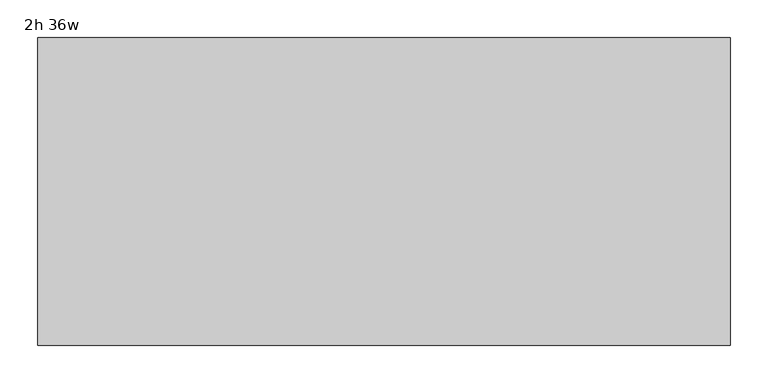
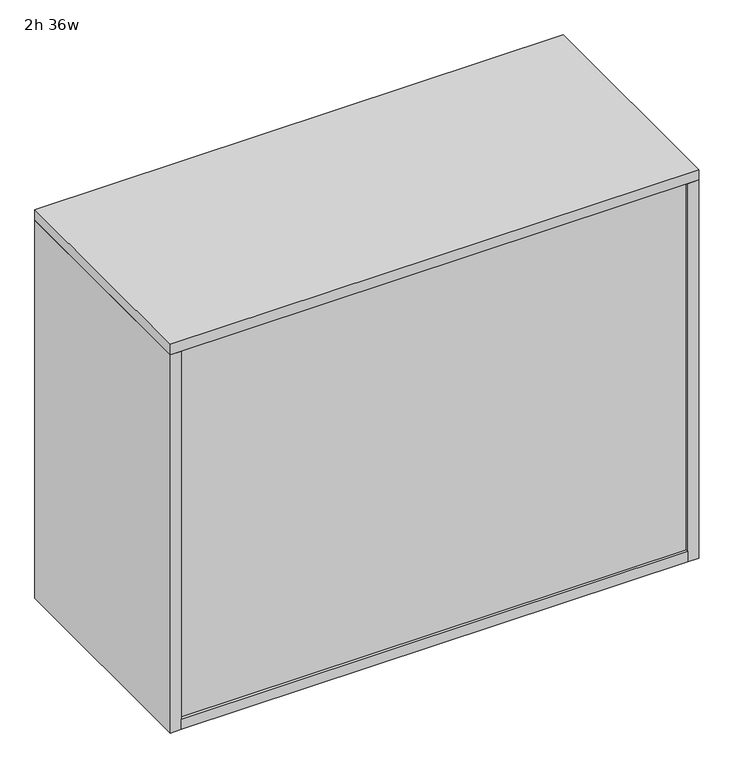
"""IFC4 building model written with IfcOpenShell, lengths in millimetres: furniture geometry, Haworth_BeHold_Bookcase1 : 2h 36w."""

from ifc_helpers import new_model, si_unit, frame, origin, origin_with_axes, place, context, project, spatial, polyline, outline, extrude, source, transform, mapped, element, save


def furniture_2h_36w_56bdcc12(model_context):
    return source(origin(), model_context, "Body", "SweptSolid", [
        extrude(outline(polyline([(281.2908447, 98.425), (-595.0091553, 98.425), (-595.0091553, 485.775), (281.2908447, 485.775), (281.2908447, 98.425)])), frame((0.0, 0.0, 398.526), z_axis=(0.0, 0.0, 1.0), x_axis=(1.0, 0.0, 0.0)), (0.0, 0.0, 1.0), 19.05),
        extrude(outline(polyline([(281.2908447, 93.6625), (-595.0091553, 93.6625), (-595.0091553, 112.7125), (281.2908447, 112.7125), (281.2908447, 93.6625)])), frame((0.0, 0.0, 19.05), z_axis=(0.0, 0.0, 1.0), x_axis=(1.0, 0.0, 0.0)), (0.0, 0.0, 1.0), 673.1),
        extrude(outline(polyline([(281.2908447, 88.9), (-595.0091553, 88.9), (-595.0091553, 495.3), (281.2908447, 495.3), (281.2908447, 88.9)])), origin_with_axes(), (0.0, 0.0, 1.0), 19.05),
        extrude(outline(polyline([(300.3408447, 88.9), (-614.0591553, 88.9), (-614.0591553, 495.3), (300.3408447, 495.3), (300.3408447, 88.9)])), frame((0.0, 0.0, 692.15), z_axis=(0.0, 0.0, 1.0), x_axis=(1.0, 0.0, 0.0)), (0.0, 0.0, 1.0), 19.05),
        extrude(outline(polyline([(-595.0091553, 88.9), (-614.0591553, 88.9), (-614.0591553, 495.3), (-595.0091553, 495.3), (-595.0091553, 88.9)])), origin_with_axes(), (0.0, 0.0, 1.0), 692.15),
        extrude(outline(polyline([(281.2908447, 495.3), (300.3408447, 495.3), (300.3408447, 88.9), (281.2908447, 88.9), (281.2908447, 495.3)])), origin_with_axes(), (0.0, 0.0, 1.0), 692.15),
    ])


if __name__ == "__main__":
    model = new_model("IFC4")
    model_context = context("Model", 3, world=origin())
    ifc_project = project(units=[si_unit("LENGTHUNIT", "METRE", prefix="MILLI")], contexts=[model_context])
    site = spatial("IfcSite", under=ifc_project)
    building = spatial("IfcBuilding", under=site)
    placement = place(None, origin())
    furniture_2h_36w_shape = furniture_2h_36w_56bdcc12(model_context)
    element("IfcFurniture", 1, ObjectType="Haworth_BeHold_Bookcase1 : 2h 36w", at=placement, inside=building, context=model_context, shape_type="MappedRepresentation", body=[
        mapped(furniture_2h_36w_shape, transform((0.0, 0.0, 0.0), x_axis=(1.0, 0.0, 0.0), y_axis=(0.0, 1.0, 0.0), z_axis=(0.0, 0.0, 1.0))),
    ])
    save(model, "model.ifc")
